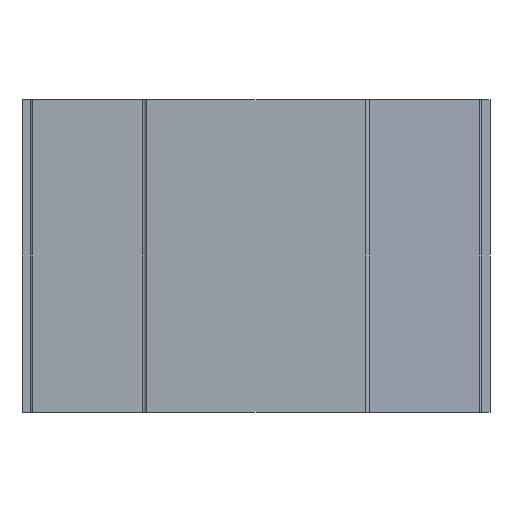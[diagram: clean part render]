
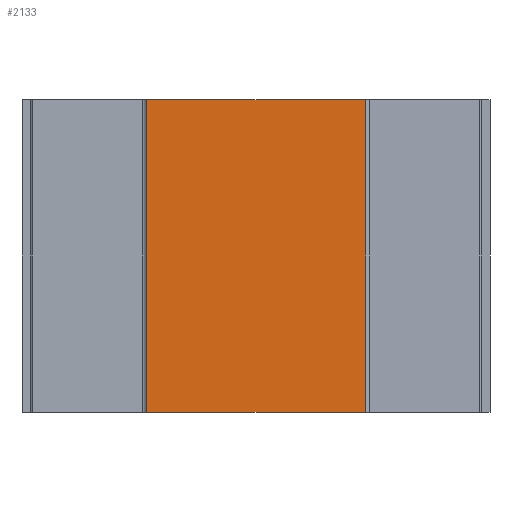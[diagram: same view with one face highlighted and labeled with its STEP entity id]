
A CAD part, front view. The second image highlights one B-rep face of the part: STEP entity #2133.
In plain terms, the highlighted planar face has unit normal (0, -1, 0).
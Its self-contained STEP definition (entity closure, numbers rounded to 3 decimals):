
#90 = EDGE_CURVE ( 'NONE', #1603, #3250, #403, .T. ) ;
#215 = DIRECTION ( 'NONE',  ( 0., 0., 1. ) ) ;
#274 = EDGE_CURVE ( 'NONE', #1603, #2151, #1379, .T. ) ;
#303 = FACE_OUTER_BOUND ( 'NONE', #2054, .T. ) ;
#403 = LINE ( 'NONE', #558, #500 ) ;
#500 = VECTOR ( 'NONE', #2270, 1000. ) ;
#558 = CARTESIAN_POINT ( 'NONE',  ( 90.925, 121.037, 100. ) ) ;
#728 = DIRECTION ( 'NONE',  ( 0., 0., -1. ) ) ;
#934 = VECTOR ( 'NONE', #728, 1000. ) ;
#1252 = ORIENTED_EDGE ( 'NONE', *, *, #90, .F. ) ;
#1355 = VECTOR ( 'NONE', #3051, 1000. ) ;
#1379 = LINE ( 'NONE', #2611, #3591 ) ;
#1603 = VERTEX_POINT ( 'NONE', #3468 ) ;
#1621 = LINE ( 'NONE', #2427, #934 ) ;
#1659 = CARTESIAN_POINT ( 'NONE',  ( 90.925, 121.037, 100. ) ) ;
#1891 = CARTESIAN_POINT ( 'NONE',  ( 90.925, 121.037, 0. ) ) ;
#1936 = DIRECTION ( 'NONE',  ( 0., 1., 0. ) ) ;
#1939 = EDGE_CURVE ( 'NONE', #3250, #2847, #1621, .T. ) ;
#2014 = CARTESIAN_POINT ( 'NONE',  ( 160.925, 121.037, 0. ) ) ;
#2054 = EDGE_LOOP ( 'NONE', ( #3149, #2495, #1252, #2511 ) ) ;
#2133 = ADVANCED_FACE ( 'NONE', ( #303 ), #2499, .F. ) ;
#2151 = VERTEX_POINT ( 'NONE', #2807 ) ;
#2270 = DIRECTION ( 'NONE',  ( 1., 0., 0. ) ) ;
#2427 = CARTESIAN_POINT ( 'NONE',  ( 160.925, 121.037, 100. ) ) ;
#2495 = ORIENTED_EDGE ( 'NONE', *, *, #1939, .F. ) ;
#2499 = PLANE ( 'NONE',  #2794 ) ;
#2511 = ORIENTED_EDGE ( 'NONE', *, *, #274, .T. ) ;
#2611 = CARTESIAN_POINT ( 'NONE',  ( 90.925, 121.037, 100. ) ) ;
#2794 = AXIS2_PLACEMENT_3D ( 'NONE', #1659, #1936, #215 ) ;
#2807 = CARTESIAN_POINT ( 'NONE',  ( 90.925, 121.037, 0. ) ) ;
#2847 = VERTEX_POINT ( 'NONE', #2014 ) ;
#2882 = DIRECTION ( 'NONE',  ( 0., 0., -1. ) ) ;
#3051 = DIRECTION ( 'NONE',  ( 1., 0., 0. ) ) ;
#3149 = ORIENTED_EDGE ( 'NONE', *, *, #3714, .T. ) ;
#3250 = VERTEX_POINT ( 'NONE', #3573 ) ;
#3468 = CARTESIAN_POINT ( 'NONE',  ( 90.925, 121.037, 100. ) ) ;
#3573 = CARTESIAN_POINT ( 'NONE',  ( 160.925, 121.037, 100. ) ) ;
#3591 = VECTOR ( 'NONE', #2882, 1000. ) ;
#3669 = LINE ( 'NONE', #1891, #1355 ) ;
#3714 = EDGE_CURVE ( 'NONE', #2151, #2847, #3669, .T. ) ;
